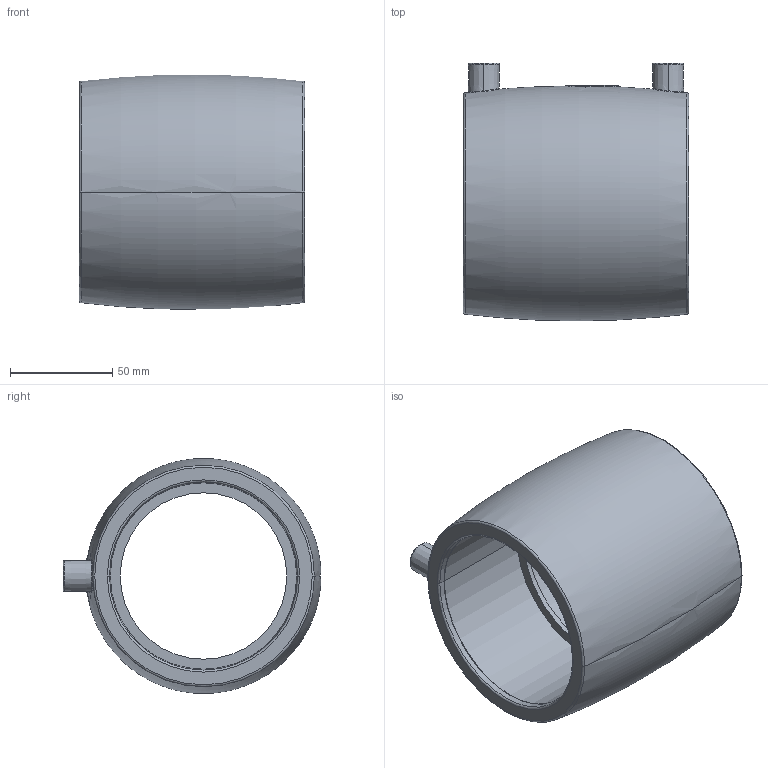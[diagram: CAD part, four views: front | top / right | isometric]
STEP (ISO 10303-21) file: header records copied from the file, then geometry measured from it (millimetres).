
FILE_DESCRIPTION (( 'STEP AP203' ), '1' );
FILE_NAME ('KP_2-90.step', '2011-08-08T12:06:54', ( '' ), ( '' ), 'SwSTEP 2.0', 'SolidWorks 2011', '' );
FILE_SCHEMA (( 'CONFIG_CONTROL_DESIGN' ));
Length unit declared in the file: millimetre
Products named in the file (1): KP_2-90
Bounding box: 110 x 125.77 x 114.66 mm (x, y, z)
Volume: 383661.3 mm3; surface area: 81624.7 mm2
Topology: 1 solids, 5 shells, 524 faces, 1339 edges, 882 vertices
Faces by surface type: plane 284, bspline 119, torus 50, cylinder 39, cone 32
Entity records: 23288 total; most frequent: CARTESIAN_POINT 11759, ORIENTED_EDGE 2678, DIRECTION 1795, EDGE_CURVE 1339, VERTEX_POINT 882, AXIS2_PLACEMENT_3D 606, EDGE_LOOP 587, VECTOR 583
